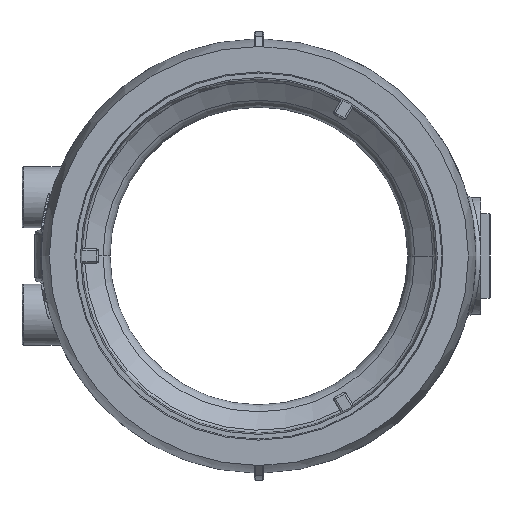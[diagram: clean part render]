
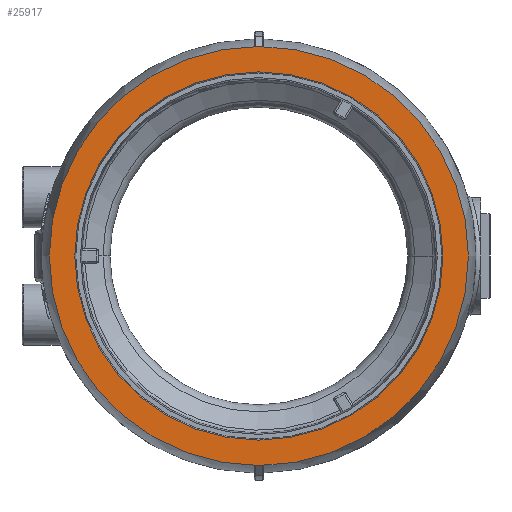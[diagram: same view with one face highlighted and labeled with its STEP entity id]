
A CAD part, left-side view. The second image highlights one B-rep face of the part: STEP entity #25917.
In plain terms, the highlighted planar face has unit normal (-1, 0, 0).
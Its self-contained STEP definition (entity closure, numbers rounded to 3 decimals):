
#14965 = CARTESIAN_POINT ( 'NONE',  ( -39.747, 0., 44.688 ) ) ;
#15018 = CARTESIAN_POINT ( 'NONE',  ( -39.747, 0., -44.688 ) ) ;
#15179 = CARTESIAN_POINT ( 'NONE',  ( -39.747, 0., 0. ) ) ;
#15180 = AXIS2_PLACEMENT_3D ( 'NONE', #15179, #15212, #15211 ) ;
#15188 = CIRCLE ( 'NONE', #15180, 44.688 ) ;
#15211 = DIRECTION ( 'NONE',  ( 0., 0., 1. ) ) ;
#15212 = DIRECTION ( 'NONE',  ( -1., 0., 0. ) ) ;
#15221 = CIRCLE ( 'NONE', #15234, 44.688 ) ;
#15233 = CARTESIAN_POINT ( 'NONE',  ( -39.747, 0., 0. ) ) ;
#15234 = AXIS2_PLACEMENT_3D ( 'NONE', #15233, #15260, #15258 ) ;
#15258 = DIRECTION ( 'NONE',  ( 0., 0., 1. ) ) ;
#15260 = DIRECTION ( 'NONE',  ( -1., 0., 0. ) ) ;
#15795 = DIRECTION ( 'NONE',  ( 0., 0., 1. ) ) ;
#15796 = DIRECTION ( 'NONE',  ( -1., 0., 0. ) ) ;
#15797 = CARTESIAN_POINT ( 'NONE',  ( -39.747, 0., 0. ) ) ;
#15798 = AXIS2_PLACEMENT_3D ( 'NONE', #15797, #15796, #15795 ) ;
#15807 = CIRCLE ( 'NONE', #15798, 39.27 ) ;
#15836 = DIRECTION ( 'NONE',  ( 0., 0., -1. ) ) ;
#15837 = DIRECTION ( 'NONE',  ( 1., 0., 0. ) ) ;
#15838 = CARTESIAN_POINT ( 'NONE',  ( -39.747, 39.27, 0. ) ) ;
#15839 = AXIS2_PLACEMENT_3D ( 'NONE', #15838, #15837, #15836 ) ;
#15843 = FACE_OUTER_BOUND ( 'NONE', #25901, .T. ) ;
#15844 = PLANE ( 'NONE',  #15839 ) ;
#15845 = FACE_BOUND ( 'NONE', #25872, .T. ) ;
#20799 = VERTEX_POINT ( 'NONE', #34244 ) ;
#20801 = EDGE_CURVE ( 'NONE', #20823, #20799, #34229, .T. ) ;
#20823 = VERTEX_POINT ( 'NONE', #34307 ) ;
#25676 = VERTEX_POINT ( 'NONE', #14965 ) ;
#25677 = VERTEX_POINT ( 'NONE', #15018 ) ;
#25742 = EDGE_CURVE ( 'NONE', #25677, #25676, #15188, .T. ) ;
#25758 = EDGE_CURVE ( 'NONE', #25676, #25677, #15221, .T. ) ;
#25872 = EDGE_LOOP ( 'NONE', ( #25908, #25918 ) ) ;
#25901 = EDGE_LOOP ( 'NONE', ( #25906, #25902 ) ) ;
#25902 = ORIENTED_EDGE ( 'NONE', *, *, #25758, .T. ) ;
#25906 = ORIENTED_EDGE ( 'NONE', *, *, #25742, .T. ) ;
#25908 = ORIENTED_EDGE ( 'NONE', *, *, #25914, .F. ) ;
#25914 = EDGE_CURVE ( 'NONE', #20799, #20823, #15807, .T. ) ;
#25917 = ADVANCED_FACE ( 'NONE', ( #15845, #15843 ), #15844, .F. ) ;
#25918 = ORIENTED_EDGE ( 'NONE', *, *, #20801, .F. ) ;
#34227 = DIRECTION ( 'NONE',  ( -1., 0., 0. ) ) ;
#34228 = CARTESIAN_POINT ( 'NONE',  ( -39.747, 0., 0. ) ) ;
#34229 = CIRCLE ( 'NONE', #34253, 39.27 ) ;
#34244 = CARTESIAN_POINT ( 'NONE',  ( -39.747, 0., 39.27 ) ) ;
#34253 = AXIS2_PLACEMENT_3D ( 'NONE', #34228, #34227, #34282 ) ;
#34282 = DIRECTION ( 'NONE',  ( 0., 0., 1. ) ) ;
#34307 = CARTESIAN_POINT ( 'NONE',  ( -39.747, 0., -39.27 ) ) ;
